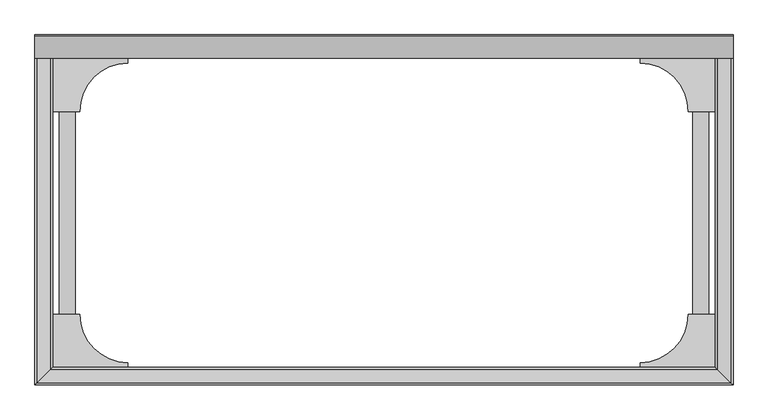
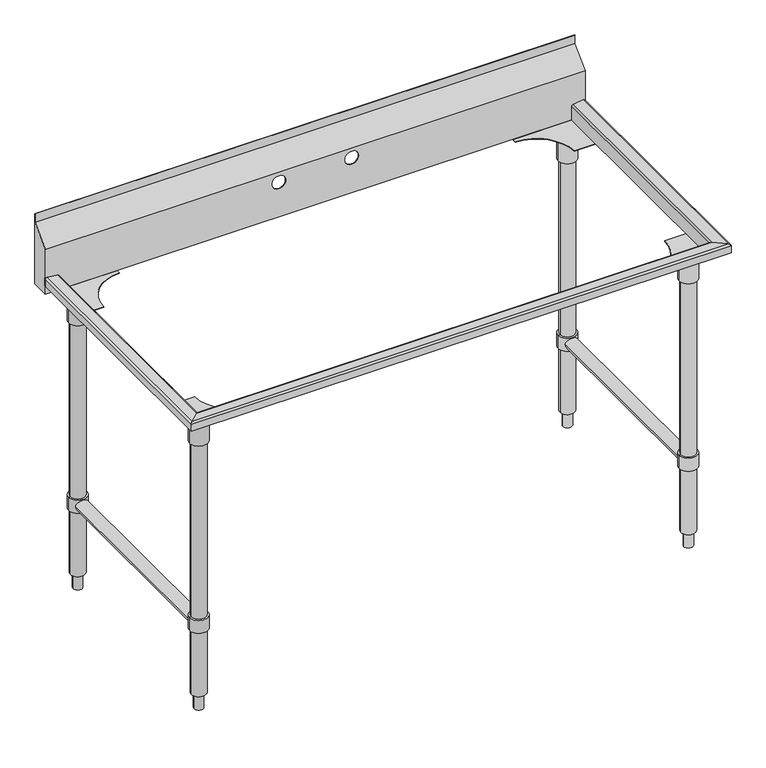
"""IFC4 building model written with IfcOpenShell, lengths in millimetres: flow terminal geometry, Sink_Double _Compartment_Floor_Mount-Elkay-RNSF82482_LR2 : RNSF82482 (Rigidbilt® Stainless Steel Floor Mount Double Compartment Scullery Sink )."""

from ifc_helpers import new_model, si_unit, point, frame, frame_2d, origin, place, context, project, spatial, polyline, circle_curve, ellipse_curve, trimmed, segment, composite_curve, outline, extrude, source, transform, mapped, element, save
from ifc_brep_helpers import plane_surface, cylinder_surface, revolved_surface, advanced_brep


def flow_terminal_7016cc60(model_context):
    return source(origin(), model_context, "Body", "SolidModel", [
        advanced_brep(
        [(751.0526, 330.1238, 909.8368683), (747.4906648, 330.1238, 912.9882024), (718.5854648, 330.1238, 909.4390901), (715.7974, 330.1238, 906.287756), (715.7974, 330.1238, 866.775), (714.375, 330.1238, 866.775), (714.375, 330.1238, 906.287756), (718.4121179, 330.1238, 910.8508877), (747.3173179, 330.1238, 914.4), (752.475, 330.1238, 909.8368683), (752.475, 330.1238, 889.6332837), (751.0526, 330.1238, 889.6332837), (751.0526, -376.4026, 909.8368683), (747.4906648, -372.8406648, 912.9882024), (718.5854648, -343.9354648, 909.4390901), (715.7974, -341.1474, 906.287756), (715.7974, -341.1474, 866.775), (-715.7974, -341.1474, 866.775), (-715.7974, 330.1238, 866.775), (-714.375, 330.1238, 866.775), (-714.375, -339.725, 866.775), (714.375, -339.725, 866.775), (714.375, -339.725, 906.287756), (718.4121179, -343.7621179, 910.8508877), (747.3173179, -372.6673179, 914.4), (752.475, -377.825, 909.8368683), (752.475, -377.825, 889.6332837), (-752.475, -377.825, 889.6332837), (-752.475, 330.1238, 889.6332837), (-751.0526, 330.1238, 889.6332837), (-751.0526, -376.4026, 889.6332837), (751.0526, -376.4026, 889.6332837), (-751.0526, -376.4026, 909.8368683), (-747.4906648, -372.8406648, 912.9882024), (-718.5854648, -343.9354648, 909.4390901), (-715.7974, -341.1474, 906.287756), (-714.375, -339.725, 906.287756), (-718.4121179, -343.7621179, 910.8508877), (-747.3173179, -372.6673179, 914.4), (-752.475, -377.825, 909.8368683), (-751.0526, 330.1238, 909.8368683), (-752.475, 330.1238, 909.8368683), (-747.3173179, 330.1238, 914.4), (-718.4121179, 330.1238, 910.8508877), (-714.375, 330.1238, 906.287756), (-715.7974, 330.1238, 906.287756), (-718.5854648, 330.1238, 909.4390901), (-747.4906648, 330.1238, 912.9882024)],
        [
            (0, 1, circle_curve(frame((747.8776, 330.1238, 909.8368683), z_axis=(0.0, -1.0, 0.0), x_axis=(1.0, 0.0, 0.0)), 3.175)),
            (1, 2),
            (2, 3, circle_curve(frame((718.9724, 330.1238, 906.287756), z_axis=(0.0, -1.0, 0.0), x_axis=(1.0, 0.0, 0.0)), 3.175)),
            (3, 4),
            (4, 5),
            (5, 6),
            (6, 7, circle_curve(frame((718.9724, 330.1238, 906.287756), z_axis=(0.0, 1.0, 0.0), x_axis=(1.0, 0.0, 0.0)), 4.5974)),
            (7, 8),
            (8, 9, circle_curve(frame((747.8776, 330.1238, 909.8368683), z_axis=(0.0, 1.0, 0.0), x_axis=(1.0, 0.0, 0.0)), 4.5974)),
            (9, 10),
            (10, 11),
            (11, 0),
            (0, 12),
            (12, 13, ellipse_curve(frame((747.8776, -373.2276, 909.8368683), z_axis=(-0.7071067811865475, -0.7071067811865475, 0.0), x_axis=(0.7071067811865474, -0.7071067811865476, 0.0)), 4.4901281, 3.175)),
            (13, 1),
            (13, 14),
            (14, 2),
            (14, 15, ellipse_curve(frame((718.9724, -344.3224, 906.287756), z_axis=(-0.7071067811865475, -0.7071067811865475, 0.0), x_axis=(0.7071067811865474, -0.7071067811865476, 0.0)), 4.4901281, 3.175)),
            (15, 3),
            (15, 16),
            (16, 4),
            (16, 17),
            (17, 18),
            (18, 19),
            (19, 20),
            (20, 21),
            (21, 5),
            (21, 22),
            (22, 6),
            (22, 23, ellipse_curve(frame((718.9724, -344.3224, 906.287756), z_axis=(0.7071067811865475, 0.7071067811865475, 0.0), x_axis=(-0.7071067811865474, 0.7071067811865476, 0.0)), 6.5017054, 4.5974)),
            (23, 7),
            (23, 24),
            (24, 8),
            (24, 25, ellipse_curve(frame((747.8776, -373.2276, 909.8368683), z_axis=(0.7071067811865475, 0.7071067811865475, 0.0), x_axis=(-0.7071067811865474, 0.7071067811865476, 0.0)), 6.5017054, 4.5974)),
            (25, 9),
            (25, 26),
            (26, 10),
            (26, 27),
            (27, 28),
            (28, 29),
            (29, 30),
            (30, 31),
            (31, 11),
            (31, 12),
            (12, 32),
            (32, 33, ellipse_curve(frame((-747.8776, -373.2276, 909.8368683), z_axis=(-0.7071067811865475, 0.7071067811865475, 0.0), x_axis=(-0.7071067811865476, -0.7071067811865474, 0.0)), 4.4901281, 3.175)),
            (33, 13),
            (33, 34),
            (34, 14),
            (34, 35, ellipse_curve(frame((-718.9724, -344.3224, 906.287756), z_axis=(-0.7071067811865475, 0.7071067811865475, 0.0), x_axis=(-0.7071067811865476, -0.7071067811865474, 0.0)), 4.4901281, 3.175)),
            (35, 15),
            (35, 17),
            (20, 36),
            (36, 22),
            (36, 37, ellipse_curve(frame((-718.9724, -344.3224, 906.287756), z_axis=(0.7071067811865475, -0.7071067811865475, 0.0), x_axis=(0.7071067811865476, 0.7071067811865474, 0.0)), 6.5017054, 4.5974)),
            (37, 23),
            (37, 38),
            (38, 24),
            (38, 39, ellipse_curve(frame((-747.8776, -373.2276, 909.8368683), z_axis=(0.7071067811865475, -0.7071067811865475, 0.0), x_axis=(0.7071067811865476, 0.7071067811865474, 0.0)), 6.5017054, 4.5974)),
            (39, 25),
            (39, 27),
            (30, 32),
            (40, 29),
            (28, 41),
            (41, 42, circle_curve(frame((-747.8776, 330.1238, 909.8368683), z_axis=(0.0, 1.0, 0.0), x_axis=(-1.0, 0.0, 0.0)), 4.5974)),
            (42, 43),
            (43, 44, circle_curve(frame((-718.9724, 330.1238, 906.287756), z_axis=(0.0, 1.0, 0.0), x_axis=(-1.0, 0.0, 0.0)), 4.5974)),
            (44, 19),
            (18, 45),
            (45, 46, circle_curve(frame((-718.9724, 330.1238, 906.287756), z_axis=(0.0, -1.0, 0.0), x_axis=(-1.0, 0.0, 0.0)), 3.175)),
            (46, 47),
            (47, 40, circle_curve(frame((-747.8776, 330.1238, 909.8368683), z_axis=(0.0, -1.0, 0.0), x_axis=(-1.0, 0.0, 0.0)), 3.175)),
            (32, 40),
            (47, 33),
            (46, 34),
            (45, 35),
            (44, 36),
            (43, 37),
            (42, 38),
            (41, 39),
        ],
        [
            plane_surface(frame((752.475, 330.1238, 0.0), z_axis=(0.0, 1.0, 0.0), x_axis=(0.0, 0.0, 1.0))),
            revolved_surface(polyline([(751.0526, -376.4026000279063, 909.8368683), (751.0526, 330.1238, 909.8368683)]), (747.8776, 330.1238, 909.8368683), (0.0, -1.0, 0.0)),
            plane_surface(frame((747.4906648, 330.1238, 912.9882024), z_axis=(0.12186934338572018, 0.0, -0.9925461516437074), x_axis=(0.0, -1.0, 0.0))),
            revolved_surface(polyline([(722.1474, -347.4974000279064, 906.287756), (722.1474, 330.1238, 906.287756)]), (718.9724, 330.1238, 906.287756), (0.0, -1.0, 0.0)),
            plane_surface(frame((715.7974, 330.1238, 906.287756), z_axis=(1.0, 0.0, 0.0), x_axis=(0.0, -1.0, 0.0))),
            plane_surface(frame((715.7974, 330.1238, 866.775), z_axis=(0.0, 0.0, -1.0), x_axis=(0.0, -1.0, 0.0))),
            plane_surface(frame((714.375, 330.1238, 866.775), z_axis=(-1.0, 0.0, 0.0), x_axis=(0.0, -1.0, 0.0))),
            cylinder_surface(frame((718.9724, 330.1238, 906.287756), z_axis=(0.0, 1.0, 0.0), x_axis=(1.0, 0.0, 0.0)), 4.5974),
            plane_surface(frame((718.4121179, 330.1238, 910.8508877), z_axis=(-0.12186934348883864, 0.0, 0.9925461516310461), x_axis=(0.0, -1.0, 0.0))),
            cylinder_surface(frame((747.8776, 330.1238, 909.8368683), z_axis=(0.0, 1.0, 0.0), x_axis=(1.0, 0.0, 0.0)), 4.5974),
            plane_surface(frame((752.475, 330.1238, 909.8368683), z_axis=(1.0, 0.0, 0.0), x_axis=(0.0, -1.0, 0.0))),
            plane_surface(frame((752.475, 330.1238, 889.6332837), z_axis=(0.0, 0.0, -1.0), x_axis=(0.0, -1.0, 0.0))),
            plane_surface(frame((751.0526, 330.1238, 889.6332837), z_axis=(-1.0, 0.0, 0.0), x_axis=(0.0, -1.0, 0.0))),
            revolved_surface(polyline([(-751.0526000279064, -376.4026, 909.8368683), (751.0526000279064, -376.4026, 909.8368683)]), (752.475, -373.2276, 909.8368683), (-1.0, 0.0, 0.0)),
            plane_surface(frame((747.4906648, -372.8406648, 912.9882024), z_axis=(0.0, -0.12186934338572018, -0.9925461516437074), x_axis=(-1.0, 0.0, 0.0))),
            revolved_surface(polyline([(-722.1474000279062, -347.4974, 906.287756), (722.1474000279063, -347.4974, 906.287756)]), (752.475, -344.3224, 906.287756), (-1.0, 0.0, 0.0)),
            plane_surface(frame((715.7974, -341.1474, 906.287756), z_axis=(0.0, -1.0, 0.0), x_axis=(-1.0, 0.0, 0.0))),
            plane_surface(frame((714.375, -339.725, 866.775), z_axis=(0.0, 1.0, 0.0), x_axis=(-1.0, 0.0, 0.0))),
            cylinder_surface(frame((752.475, -344.3224, 906.287756), z_axis=(1.0, 0.0, 0.0), x_axis=(0.0, -1.0, 0.0)), 4.5974),
            plane_surface(frame((718.4121179, -343.7621179, 910.8508877), z_axis=(0.0, 0.12186934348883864, 0.9925461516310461), x_axis=(-1.0, 0.0, 0.0))),
            cylinder_surface(frame((752.475, -373.2276, 909.8368683), z_axis=(1.0, 0.0, 0.0), x_axis=(0.0, -1.0, 0.0)), 4.5974),
            plane_surface(frame((752.475, -377.825, 909.8368683), z_axis=(0.0, -1.0, 0.0), x_axis=(-1.0, 0.0, 0.0))),
            plane_surface(frame((751.0526, -376.4026, 889.6332837), z_axis=(0.0, 1.0, 0.0), x_axis=(-1.0, 0.0, 0.0))),
            plane_surface(frame((-752.475, 330.1238, 0.0), z_axis=(0.0, 1.0, 0.0), x_axis=(0.0, 0.0, 1.0))),
            revolved_surface(polyline([(-751.0526, 330.1238, 909.8368683), (-751.0526, -376.40260002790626, 909.8368683)]), (-747.8776, -377.825, 909.8368683), (0.0, 1.0, 0.0)),
            plane_surface(frame((-747.4906648, -372.8406648, 912.9882024), z_axis=(-0.12186934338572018, 0.0, -0.9925461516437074), x_axis=(0.0, 1.0, 0.0))),
            revolved_surface(polyline([(-722.1474, 330.1238, 906.287756), (-722.1474, -347.4974000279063, 906.287756)]), (-718.9724, -377.825, 906.287756), (0.0, 1.0, 0.0)),
            plane_surface(frame((-715.7974, -341.1474, 906.287756), z_axis=(-1.0, 0.0, 0.0), x_axis=(0.0, 1.0, 0.0))),
            plane_surface(frame((-714.375, -339.725, 866.775), z_axis=(1.0, 0.0, 0.0), x_axis=(0.0, 1.0, 0.0))),
            cylinder_surface(frame((-718.9724, -377.825, 906.287756), z_axis=(0.0, -1.0, 0.0), x_axis=(-1.0, 0.0, 0.0)), 4.5974),
            plane_surface(frame((-718.4121179, -343.7621179, 910.8508877), z_axis=(0.12186934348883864, 0.0, 0.9925461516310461), x_axis=(0.0, 1.0, 0.0))),
            cylinder_surface(frame((-747.8776, -377.825, 909.8368683), z_axis=(0.0, -1.0, 0.0), x_axis=(-1.0, 0.0, 0.0)), 4.5974),
            plane_surface(frame((-752.475, -377.825, 909.8368683), z_axis=(-1.0, 0.0, 0.0), x_axis=(0.0, 1.0, 0.0))),
            plane_surface(frame((-751.0526, -376.4026, 889.6332837), z_axis=(1.0, 0.0, 0.0), x_axis=(0.0, 1.0, 0.0))),
        ],
        [
            (0, [[1, 2, 3, 4, 5, 6, 7, 8, 9, 10, 11, 12]]),
            (1, [[-1, 13, 14, 15]]),
            (2, [[-2, -15, 16, 17]]),
            (3, [[-3, -17, 18, 19]]),
            (4, [[-4, -19, 20, 21]]),
            (5, [[-5, -21, 22, 23, 24, 25, 26, 27]]),
            (6, [[-6, -27, 28, 29]]),
            (7, [[-7, -29, 30, 31]]),
            (8, [[-8, -31, 32, 33]]),
            (9, [[-9, -33, 34, 35]]),
            (10, [[-10, -35, 36, 37]]),
            (11, [[-11, -37, 38, 39, 40, 41, 42, 43]]),
            (12, [[-12, -43, 44, -13]]),
            (13, [[-14, 45, 46, 47]]),
            (14, [[-16, -47, 48, 49]]),
            (15, [[-18, -49, 50, 51]]),
            (16, [[-20, -51, 52, -22]]),
            (17, [[-28, -26, 53, 54]]),
            (18, [[-30, -54, 55, 56]]),
            (19, [[-32, -56, 57, 58]]),
            (20, [[-34, -58, 59, 60]]),
            (21, [[-36, -60, 61, -38]]),
            (22, [[-44, -42, 62, -45]]),
            (23, [[63, -40, 64, 65, 66, 67, 68, -24, 69, 70, 71, 72]]),
            (24, [[-46, 73, -72, 74]]),
            (25, [[-48, -74, -71, 75]]),
            (26, [[-50, -75, -70, 76]]),
            (27, [[-52, -76, -69, -23]]),
            (28, [[-53, -25, -68, 77]]),
            (29, [[-55, -77, -67, 78]]),
            (30, [[-57, -78, -66, 79]]),
            (31, [[-59, -79, -65, 80]]),
            (32, [[-61, -80, -64, -39]]),
            (33, [[-62, -41, -63, -73]]),
        ],
    ),
        advanced_brep(
        [(657.225, 292.1, 787.5081855), (708.025, 292.1, 787.5081855), (708.025, 292.1, 863.7081855), (657.225, 292.1, 863.7081855), (657.225, 292.1, 273.05), (708.025, 292.1, 273.05), (702.945, 292.1, 273.05), (662.305, 292.1, 273.05), (657.225, 292.1, 234.95), (708.025, 292.1, 234.95), (662.305, 292.1, 234.95), (702.945, 292.1, 234.95), (662.305, 292.1, 44.45), (702.945, 292.1, 44.45), (669.925, 292.1, 44.45), (695.325, 292.1, 44.45), (669.925, 292.1, 0.0), (695.325, 292.1, 0.0), (682.625, 292.1, 0.0), (682.625, 292.1, 863.7081855), (662.305, 292.1, 787.5081855), (702.945, 292.1, 787.5081855)],
        [
            (0, 1, circle_curve(frame((682.625, 292.1, 787.5081855), z_axis=(0.0, 0.0, 1.0), x_axis=(1.0, 0.0, 0.0)), 25.4)),
            (1, 2),
            (2, 3, circle_curve(frame((682.625, 292.1, 863.7081855), z_axis=(0.0, 0.0, -1.0), x_axis=(1.0, 0.0, 0.0)), 25.4)),
            (3, 0),
            (1, 0, circle_curve(frame((682.625, 292.1, 787.5081855), z_axis=(0.0, 0.0, 1.0), x_axis=(1.0, 0.0, 0.0)), 25.4)),
            (3, 2, circle_curve(frame((682.625, 292.1, 863.7081855), z_axis=(0.0, 0.0, -1.0), x_axis=(1.0, 0.0, 0.0)), 25.4)),
            (4, 5, circle_curve(frame((682.625, 292.1, 273.05), z_axis=(0.0, 0.0, 1.0), x_axis=(1.0, 0.0, 0.0)), 25.4)),
            (5, 6),
            (6, 7, circle_curve(frame((682.625, 292.1, 273.05), z_axis=(0.0, 0.0, -1.0), x_axis=(1.0, 0.0, 0.0)), 20.32)),
            (7, 4),
            (5, 4, circle_curve(frame((682.625, 292.1, 273.05), z_axis=(0.0, 0.0, 1.0), x_axis=(1.0, 0.0, 0.0)), 25.4)),
            (7, 6, circle_curve(frame((682.625, 292.1, 273.05), z_axis=(0.0, 0.0, -1.0), x_axis=(1.0, 0.0, 0.0)), 20.32)),
            (8, 9, circle_curve(frame((682.625, 292.1, 234.95), z_axis=(0.0, 0.0, 1.0), x_axis=(1.0, 0.0, 0.0)), 25.4)),
            (9, 5),
            (4, 8),
            (9, 8, circle_curve(frame((682.625, 292.1, 234.95), z_axis=(0.0, 0.0, 1.0), x_axis=(1.0, 0.0, 0.0)), 25.4)),
            (10, 11, circle_curve(frame((682.625, 292.1, 234.95), z_axis=(0.0, 0.0, 1.0), x_axis=(1.0, 0.0, 0.0)), 20.32)),
            (11, 9),
            (8, 10),
            (11, 10, circle_curve(frame((682.625, 292.1, 234.95), z_axis=(0.0, 0.0, 1.0), x_axis=(1.0, 0.0, 0.0)), 20.32)),
            (12, 13, circle_curve(frame((682.625, 292.1, 44.45), z_axis=(0.0, 0.0, 1.0), x_axis=(1.0, 0.0, 0.0)), 20.32)),
            (13, 11),
            (10, 12),
            (13, 12, circle_curve(frame((682.625, 292.1, 44.45), z_axis=(0.0, 0.0, 1.0), x_axis=(1.0, 0.0, 0.0)), 20.32)),
            (14, 15, circle_curve(frame((682.625, 292.1, 44.45), z_axis=(0.0, 0.0, 1.0), x_axis=(1.0, 0.0, 0.0)), 12.7)),
            (15, 13),
            (12, 14),
            (15, 14, circle_curve(frame((682.625, 292.1, 44.45), z_axis=(0.0, 0.0, 1.0), x_axis=(1.0, 0.0, 0.0)), 12.7)),
            (16, 17, circle_curve(frame((682.625, 292.1, 0.0), z_axis=(0.0, 0.0, 1.0), x_axis=(1.0, 0.0, 0.0)), 12.7)),
            (17, 15),
            (14, 16),
            (17, 16, circle_curve(frame((682.625, 292.1, 0.0), z_axis=(0.0, 0.0, 1.0), x_axis=(1.0, 0.0, 0.0)), 12.7)),
            (18, 17),
            (16, 18),
            (2, 19),
            (19, 3),
            (20, 21, circle_curve(frame((682.625, 292.1, 787.5081855), z_axis=(0.0, 0.0, 1.0), x_axis=(1.0, 0.0, 0.0)), 20.32)),
            (21, 1),
            (0, 20),
            (21, 20, circle_curve(frame((682.625, 292.1, 787.5081855), z_axis=(0.0, 0.0, 1.0), x_axis=(1.0, 0.0, 0.0)), 20.32)),
            (6, 21),
            (20, 7),
        ],
        [
            cylinder_surface(frame((682.625, 292.1, 1148.8879315), z_axis=(0.0, 0.0, -1.0), x_axis=(1.0, 0.0, 0.0)), 25.4),
            plane_surface(frame((682.625, 292.1, 273.05), z_axis=(0.0, 0.0, 1.0), x_axis=(1.0, 0.0, 0.0))),
            plane_surface(frame((682.625, 292.1, 234.95), z_axis=(0.0, 0.0, -1.0), x_axis=(1.0, 0.0, 0.0))),
            cylinder_surface(frame((682.625, 292.1, 1148.8879315), z_axis=(0.0, 0.0, -1.0), x_axis=(1.0, 0.0, 0.0)), 20.32),
            plane_surface(frame((682.625, 292.1, 44.45), z_axis=(0.0, 0.0, -1.0), x_axis=(1.0, 0.0, 0.0))),
            cylinder_surface(frame((682.625, 292.1, 1148.8879315), z_axis=(0.0, 0.0, -1.0), x_axis=(1.0, 0.0, 0.0)), 12.7),
            plane_surface(frame((682.625, 292.1, 0.0), z_axis=(0.0, 0.0, -1.0), x_axis=(1.0, 0.0, 0.0))),
            plane_surface(frame((682.625, 292.1, 863.7081855), z_axis=(0.0, 0.0, 1.0), x_axis=(1.0, 0.0, 0.0))),
            plane_surface(frame((682.625, 292.1, 787.5081855), z_axis=(0.0, 0.0, -1.0), x_axis=(1.0, 0.0, 0.0))),
        ],
        [
            (0, [[1, 2, 3, 4]]),
            (0, [[5, -4, 6, -2]]),
            (1, [[7, 8, 9, 10]]),
            (1, [[11, -10, 12, -8]]),
            (0, [[13, 14, -7, 15]]),
            (0, [[16, -15, -11, -14]]),
            (2, [[17, 18, -13, 19]]),
            (2, [[20, -19, -16, -18]]),
            (3, [[21, 22, -17, 23]]),
            (3, [[24, -23, -20, -22]]),
            (4, [[25, 26, -21, 27]]),
            (4, [[28, -27, -24, -26]]),
            (5, [[29, 30, -25, 31]]),
            (5, [[32, -31, -28, -30]]),
            (6, [[33, -29, 34]]),
            (6, [[-34, -32, -33]]),
            (7, [[-3, 35, 36]]),
            (7, [[-6, -36, -35]]),
            (8, [[37, 38, -1, 39]]),
            (8, [[40, -39, -5, -38]]),
            (3, [[-9, 41, -37, 42]]),
            (3, [[-12, -42, -40, -41]]),
        ],
    ),
        advanced_brep(
        [(657.225, -292.1, 787.5081855), (708.025, -292.1, 787.5081855), (708.025, -292.1, 863.7081855), (657.225, -292.1, 863.7081855), (657.225, -292.1, 273.05), (708.025, -292.1, 273.05), (702.945, -292.1, 273.05), (662.305, -292.1, 273.05), (657.225, -292.1, 234.95), (708.025, -292.1, 234.95), (662.305, -292.1, 234.95), (702.945, -292.1, 234.95), (662.305, -292.1, 44.45), (702.945, -292.1, 44.45), (669.925, -292.1, 44.45), (695.325, -292.1, 44.45), (669.925, -292.1, 0.0), (695.325, -292.1, 0.0), (682.625, -292.1, 0.0), (682.625, -292.1, 863.7081855), (662.305, -292.1, 787.5081855), (702.945, -292.1, 787.5081855)],
        [
            (0, 1, circle_curve(frame((682.625, -292.1, 787.5081855), z_axis=(0.0, 0.0, 1.0), x_axis=(1.0, 0.0, 0.0)), 25.4)),
            (1, 2),
            (2, 3, circle_curve(frame((682.625, -292.1, 863.7081855), z_axis=(0.0, 0.0, -1.0), x_axis=(1.0, 0.0, 0.0)), 25.4)),
            (3, 0),
            (1, 0, circle_curve(frame((682.625, -292.1, 787.5081855), z_axis=(0.0, 0.0, 1.0), x_axis=(1.0, 0.0, 0.0)), 25.4)),
            (3, 2, circle_curve(frame((682.625, -292.1, 863.7081855), z_axis=(0.0, 0.0, -1.0), x_axis=(1.0, 0.0, 0.0)), 25.4)),
            (4, 5, circle_curve(frame((682.625, -292.1, 273.05), z_axis=(0.0, 0.0, 1.0), x_axis=(1.0, 0.0, 0.0)), 25.4)),
            (5, 6),
            (6, 7, circle_curve(frame((682.625, -292.1, 273.05), z_axis=(0.0, 0.0, -1.0), x_axis=(1.0, 0.0, 0.0)), 20.32)),
            (7, 4),
            (5, 4, circle_curve(frame((682.625, -292.1, 273.05), z_axis=(0.0, 0.0, 1.0), x_axis=(1.0, 0.0, 0.0)), 25.4)),
            (7, 6, circle_curve(frame((682.625, -292.1, 273.05), z_axis=(0.0, 0.0, -1.0), x_axis=(1.0, 0.0, 0.0)), 20.32)),
            (8, 9, circle_curve(frame((682.625, -292.1, 234.95), z_axis=(0.0, 0.0, 1.0), x_axis=(1.0, 0.0, 0.0)), 25.4)),
            (9, 5),
            (4, 8),
            (9, 8, circle_curve(frame((682.625, -292.1, 234.95), z_axis=(0.0, 0.0, 1.0), x_axis=(1.0, 0.0, 0.0)), 25.4)),
            (10, 11, circle_curve(frame((682.625, -292.1, 234.95), z_axis=(0.0, 0.0, 1.0), x_axis=(1.0, 0.0, 0.0)), 20.32)),
            (11, 9),
            (8, 10),
            (11, 10, circle_curve(frame((682.625, -292.1, 234.95), z_axis=(0.0, 0.0, 1.0), x_axis=(1.0, 0.0, 0.0)), 20.32)),
            (12, 13, circle_curve(frame((682.625, -292.1, 44.45), z_axis=(0.0, 0.0, 1.0), x_axis=(1.0, 0.0, 0.0)), 20.32)),
            (13, 11),
            (10, 12),
            (13, 12, circle_curve(frame((682.625, -292.1, 44.45), z_axis=(0.0, 0.0, 1.0), x_axis=(1.0, 0.0, 0.0)), 20.32)),
            (14, 15, circle_curve(frame((682.625, -292.1, 44.45), z_axis=(0.0, 0.0, 1.0), x_axis=(1.0, 0.0, 0.0)), 12.7)),
            (15, 13),
            (12, 14),
            (15, 14, circle_curve(frame((682.625, -292.1, 44.45), z_axis=(0.0, 0.0, 1.0), x_axis=(1.0, 0.0, 0.0)), 12.7)),
            (16, 17, circle_curve(frame((682.625, -292.1, 0.0), z_axis=(0.0, 0.0, 1.0), x_axis=(1.0, 0.0, 0.0)), 12.7)),
            (17, 15),
            (14, 16),
            (17, 16, circle_curve(frame((682.625, -292.1, 0.0), z_axis=(0.0, 0.0, 1.0), x_axis=(1.0, 0.0, 0.0)), 12.7)),
            (18, 17),
            (16, 18),
            (2, 19),
            (19, 3),
            (20, 21, circle_curve(frame((682.625, -292.1, 787.5081855), z_axis=(0.0, 0.0, 1.0), x_axis=(1.0, 0.0, 0.0)), 20.32)),
            (21, 1),
            (0, 20),
            (21, 20, circle_curve(frame((682.625, -292.1, 787.5081855), z_axis=(0.0, 0.0, 1.0), x_axis=(1.0, 0.0, 0.0)), 20.32)),
            (6, 21),
            (20, 7),
        ],
        [
            cylinder_surface(frame((682.625, -292.1, 1148.8879315), z_axis=(0.0, 0.0, -1.0), x_axis=(1.0, 0.0, 0.0)), 25.4),
            plane_surface(frame((682.625, -292.1, 273.05), z_axis=(0.0, 0.0, 1.0), x_axis=(1.0, 0.0, 0.0))),
            plane_surface(frame((682.625, -292.1, 234.95), z_axis=(0.0, 0.0, -1.0), x_axis=(1.0, 0.0, 0.0))),
            cylinder_surface(frame((682.625, -292.1, 1148.8879315), z_axis=(0.0, 0.0, -1.0), x_axis=(1.0, 0.0, 0.0)), 20.32),
            plane_surface(frame((682.625, -292.1, 44.45), z_axis=(0.0, 0.0, -1.0), x_axis=(1.0, 0.0, 0.0))),
            cylinder_surface(frame((682.625, -292.1, 1148.8879315), z_axis=(0.0, 0.0, -1.0), x_axis=(1.0, 0.0, 0.0)), 12.7),
            plane_surface(frame((682.625, -292.1, 0.0), z_axis=(0.0, 0.0, -1.0), x_axis=(1.0, 0.0, 0.0))),
            plane_surface(frame((682.625, -292.1, 863.7081855), z_axis=(0.0, 0.0, 1.0), x_axis=(1.0, 0.0, 0.0))),
            plane_surface(frame((682.625, -292.1, 787.5081855), z_axis=(0.0, 0.0, -1.0), x_axis=(1.0, 0.0, 0.0))),
        ],
        [
            (0, [[1, 2, 3, 4]]),
            (0, [[5, -4, 6, -2]]),
            (1, [[7, 8, 9, 10]]),
            (1, [[11, -10, 12, -8]]),
            (0, [[13, 14, -7, 15]]),
            (0, [[16, -15, -11, -14]]),
            (2, [[17, 18, -13, 19]]),
            (2, [[20, -19, -16, -18]]),
            (3, [[21, 22, -17, 23]]),
            (3, [[24, -23, -20, -22]]),
            (4, [[25, 26, -21, 27]]),
            (4, [[28, -27, -24, -26]]),
            (5, [[29, 30, -25, 31]]),
            (5, [[32, -31, -28, -30]]),
            (6, [[33, -29, 34]]),
            (6, [[-34, -32, -33]]),
            (7, [[-3, 35, 36]]),
            (7, [[-6, -36, -35]]),
            (8, [[37, 38, -1, 39]]),
            (8, [[40, -39, -5, -38]]),
            (3, [[-9, 41, -37, 42]]),
            (3, [[-12, -42, -40, -41]]),
        ],
    ),
        advanced_brep(
        [(-657.225, -292.1, 863.7081855), (-708.025, -292.1, 863.7081855), (-708.025, -292.1, 787.5081855), (-657.225, -292.1, 787.5081855), (-662.305, -292.1, 273.05), (-702.945, -292.1, 273.05), (-708.025, -292.1, 273.05), (-657.225, -292.1, 273.05), (-708.025, -292.1, 234.95), (-657.225, -292.1, 234.95), (-702.945, -292.1, 234.95), (-662.305, -292.1, 234.95), (-702.945, -292.1, 44.45), (-662.305, -292.1, 44.45), (-695.325, -292.1, 44.45), (-669.925, -292.1, 44.45), (-695.325, -292.1, 0.0), (-669.925, -292.1, 0.0), (-682.625, -292.1, 0.0), (-682.625, -292.1, 863.7081855), (-702.945, -292.1, 787.5081855), (-662.305, -292.1, 787.5081855)],
        [
            (0, 1, circle_curve(frame((-682.625, -292.1, 863.7081855), z_axis=(0.0, 0.0, -1.0), x_axis=(-1.0, 0.0, 0.0)), 25.4)),
            (1, 2),
            (2, 3, circle_curve(frame((-682.625, -292.1, 787.5081855), z_axis=(0.0, 0.0, 1.0), x_axis=(-1.0, 0.0, 0.0)), 25.4)),
            (3, 0),
            (1, 0, circle_curve(frame((-682.625, -292.1, 863.7081855), z_axis=(0.0, 0.0, -1.0), x_axis=(-1.0, 0.0, 0.0)), 25.4)),
            (3, 2, circle_curve(frame((-682.625, -292.1, 787.5081855), z_axis=(0.0, 0.0, 1.0), x_axis=(-1.0, 0.0, 0.0)), 25.4)),
            (4, 5, circle_curve(frame((-682.625, -292.1, 273.05), z_axis=(0.0, 0.0, -1.0), x_axis=(-1.0, 0.0, 0.0)), 20.32)),
            (5, 6),
            (6, 7, circle_curve(frame((-682.625, -292.1, 273.05), z_axis=(0.0, 0.0, 1.0), x_axis=(-1.0, 0.0, 0.0)), 25.4)),
            (7, 4),
            (5, 4, circle_curve(frame((-682.625, -292.1, 273.05), z_axis=(0.0, 0.0, -1.0), x_axis=(-1.0, 0.0, 0.0)), 20.32)),
            (7, 6, circle_curve(frame((-682.625, -292.1, 273.05), z_axis=(0.0, 0.0, 1.0), x_axis=(-1.0, 0.0, 0.0)), 25.4)),
            (6, 8),
            (8, 9, circle_curve(frame((-682.625, -292.1, 234.95), z_axis=(0.0, 0.0, 1.0), x_axis=(-1.0, 0.0, 0.0)), 25.4)),
            (9, 7),
            (9, 8, circle_curve(frame((-682.625, -292.1, 234.95), z_axis=(0.0, 0.0, 1.0), x_axis=(-1.0, 0.0, 0.0)), 25.4)),
            (8, 10),
            (10, 11, circle_curve(frame((-682.625, -292.1, 234.95), z_axis=(0.0, 0.0, 1.0), x_axis=(-1.0, 0.0, 0.0)), 20.32)),
            (11, 9),
            (11, 10, circle_curve(frame((-682.625, -292.1, 234.95), z_axis=(0.0, 0.0, 1.0), x_axis=(-1.0, 0.0, 0.0)), 20.32)),
            (10, 12),
            (12, 13, circle_curve(frame((-682.625, -292.1, 44.45), z_axis=(0.0, 0.0, 1.0), x_axis=(-1.0, 0.0, 0.0)), 20.32)),
            (13, 11),
            (13, 12, circle_curve(frame((-682.625, -292.1, 44.45), z_axis=(0.0, 0.0, 1.0), x_axis=(-1.0, 0.0, 0.0)), 20.32)),
            (12, 14),
            (14, 15, circle_curve(frame((-682.625, -292.1, 44.45), z_axis=(0.0, 0.0, 1.0), x_axis=(-1.0, 0.0, 0.0)), 12.7)),
            (15, 13),
            (15, 14, circle_curve(frame((-682.625, -292.1, 44.45), z_axis=(0.0, 0.0, 1.0), x_axis=(-1.0, 0.0, 0.0)), 12.7)),
            (14, 16),
            (16, 17, circle_curve(frame((-682.625, -292.1, 0.0), z_axis=(0.0, 0.0, 1.0), x_axis=(-1.0, 0.0, 0.0)), 12.7)),
            (17, 15),
            (17, 16, circle_curve(frame((-682.625, -292.1, 0.0), z_axis=(0.0, 0.0, 1.0), x_axis=(-1.0, 0.0, 0.0)), 12.7)),
            (16, 18),
            (18, 17),
            (19, 1),
            (0, 19),
            (2, 20),
            (20, 21, circle_curve(frame((-682.625, -292.1, 787.5081855), z_axis=(0.0, 0.0, 1.0), x_axis=(-1.0, 0.0, 0.0)), 20.32)),
            (21, 3),
            (21, 20, circle_curve(frame((-682.625, -292.1, 787.5081855), z_axis=(0.0, 0.0, 1.0), x_axis=(-1.0, 0.0, 0.0)), 20.32)),
            (20, 5),
            (4, 21),
        ],
        [
            cylinder_surface(frame((-682.625, -292.1, 1148.8879315), z_axis=(0.0, 0.0, 1.0), x_axis=(-1.0, 0.0, 0.0)), 25.4),
            plane_surface(frame((-682.625, -292.1, 273.05), z_axis=(0.0, 0.0, 1.0), x_axis=(-1.0, 0.0, 0.0))),
            plane_surface(frame((-682.625, -292.1, 234.95), z_axis=(0.0, 0.0, -1.0), x_axis=(-1.0, 0.0, 0.0))),
            cylinder_surface(frame((-682.625, -292.1, 1148.8879315), z_axis=(0.0, 0.0, 1.0), x_axis=(-1.0, 0.0, 0.0)), 20.32),
            plane_surface(frame((-682.625, -292.1, 44.45), z_axis=(0.0, 0.0, -1.0), x_axis=(-1.0, 0.0, 0.0))),
            cylinder_surface(frame((-682.625, -292.1, 1148.8879315), z_axis=(0.0, 0.0, 1.0), x_axis=(-1.0, 0.0, 0.0)), 12.7),
            plane_surface(frame((-682.625, -292.1, 0.0), z_axis=(0.0, 0.0, -1.0), x_axis=(-1.0, 0.0, 0.0))),
            plane_surface(frame((-682.625, -292.1, 863.7081855), z_axis=(0.0, 0.0, 1.0), x_axis=(-1.0, 0.0, 0.0))),
            plane_surface(frame((-682.625, -292.1, 787.5081855), z_axis=(0.0, 0.0, -1.0), x_axis=(-1.0, 0.0, 0.0))),
        ],
        [
            (0, [[1, 2, 3, 4]]),
            (0, [[5, -4, 6, -2]]),
            (1, [[7, 8, 9, 10]]),
            (1, [[11, -10, 12, -8]]),
            (0, [[-9, 13, 14, 15]]),
            (0, [[-12, -15, 16, -13]]),
            (2, [[-14, 17, 18, 19]]),
            (2, [[-16, -19, 20, -17]]),
            (3, [[-18, 21, 22, 23]]),
            (3, [[-20, -23, 24, -21]]),
            (4, [[-22, 25, 26, 27]]),
            (4, [[-24, -27, 28, -25]]),
            (5, [[-26, 29, 30, 31]]),
            (5, [[-28, -31, 32, -29]]),
            (6, [[-30, 33, 34]]),
            (6, [[-32, -34, -33]]),
            (7, [[35, -1, 36]]),
            (7, [[-36, -5, -35]]),
            (8, [[-3, 37, 38, 39]]),
            (8, [[-6, -39, 40, -37]]),
            (3, [[-38, 41, -7, 42]]),
            (3, [[-40, -42, -11, -41]]),
        ],
    ),
        advanced_brep(
        [(-657.225, 292.1, 863.7081855), (-708.025, 292.1, 863.7081855), (-708.025, 292.1, 787.5016), (-657.225, 292.1, 787.5016), (-662.305, 292.1, 273.05), (-702.945, 292.1, 273.05), (-708.025, 292.1, 273.05), (-657.225, 292.1, 273.05), (-708.025, 292.1, 234.95), (-657.225, 292.1, 234.95), (-702.945, 292.1, 234.95), (-662.305, 292.1, 234.95), (-702.945, 292.1, 44.45), (-662.305, 292.1, 44.45), (-695.325, 292.1, 44.45), (-669.925, 292.1, 44.45), (-695.325, 292.1, 0.0), (-669.925, 292.1, 0.0), (-682.625, 292.1, 0.0), (-682.625, 292.1, 863.7081855), (-702.945, 292.1, 787.5016), (-662.305, 292.1, 787.5016)],
        [
            (0, 1, circle_curve(frame((-682.625, 292.1, 863.7081855), z_axis=(0.0, 0.0, -1.0), x_axis=(-1.0, 0.0, 0.0)), 25.4)),
            (1, 2),
            (2, 3, circle_curve(frame((-682.625, 292.1, 787.5016), z_axis=(0.0, 0.0, 1.0), x_axis=(-1.0, 0.0, 0.0)), 25.4)),
            (3, 0),
            (1, 0, circle_curve(frame((-682.625, 292.1, 863.7081855), z_axis=(0.0, 0.0, -1.0), x_axis=(-1.0, 0.0, 0.0)), 25.4)),
            (3, 2, circle_curve(frame((-682.625, 292.1, 787.5016), z_axis=(0.0, 0.0, 1.0), x_axis=(-1.0, 0.0, 0.0)), 25.4)),
            (4, 5, circle_curve(frame((-682.625, 292.1, 273.05), z_axis=(0.0, 0.0, -1.0), x_axis=(-1.0, 0.0, 0.0)), 20.32)),
            (5, 6),
            (6, 7, circle_curve(frame((-682.625, 292.1, 273.05), z_axis=(0.0, 0.0, 1.0), x_axis=(-1.0, 0.0, 0.0)), 25.4)),
            (7, 4),
            (5, 4, circle_curve(frame((-682.625, 292.1, 273.05), z_axis=(0.0, 0.0, -1.0), x_axis=(-1.0, 0.0, 0.0)), 20.32)),
            (7, 6, circle_curve(frame((-682.625, 292.1, 273.05), z_axis=(0.0, 0.0, 1.0), x_axis=(-1.0, 0.0, 0.0)), 25.4)),
            (6, 8),
            (8, 9, circle_curve(frame((-682.625, 292.1, 234.95), z_axis=(0.0, 0.0, 1.0), x_axis=(-1.0, 0.0, 0.0)), 25.4)),
            (9, 7),
            (9, 8, circle_curve(frame((-682.625, 292.1, 234.95), z_axis=(0.0, 0.0, 1.0), x_axis=(-1.0, 0.0, 0.0)), 25.4)),
            (8, 10),
            (10, 11, circle_curve(frame((-682.625, 292.1, 234.95), z_axis=(0.0, 0.0, 1.0), x_axis=(-1.0, 0.0, 0.0)), 20.32)),
            (11, 9),
            (11, 10, circle_curve(frame((-682.625, 292.1, 234.95), z_axis=(0.0, 0.0, 1.0), x_axis=(-1.0, 0.0, 0.0)), 20.32)),
            (10, 12),
            (12, 13, circle_curve(frame((-682.625, 292.1, 44.45), z_axis=(0.0, 0.0, 1.0), x_axis=(-1.0, 0.0, 0.0)), 20.32)),
            (13, 11),
            (13, 12, circle_curve(frame((-682.625, 292.1, 44.45), z_axis=(0.0, 0.0, 1.0), x_axis=(-1.0, 0.0, 0.0)), 20.32)),
            (12, 14),
            (14, 15, circle_curve(frame((-682.625, 292.1, 44.45), z_axis=(0.0, 0.0, 1.0), x_axis=(-1.0, 0.0, 0.0)), 12.7)),
            (15, 13),
            (15, 14, circle_curve(frame((-682.625, 292.1, 44.45), z_axis=(0.0, 0.0, 1.0), x_axis=(-1.0, 0.0, 0.0)), 12.7)),
            (14, 16),
            (16, 17, circle_curve(frame((-682.625, 292.1, 0.0), z_axis=(0.0, 0.0, 1.0), x_axis=(-1.0, 0.0, 0.0)), 12.7)),
            (17, 15),
            (17, 16, circle_curve(frame((-682.625, 292.1, 0.0), z_axis=(0.0, 0.0, 1.0), x_axis=(-1.0, 0.0, 0.0)), 12.7)),
            (16, 18),
            (18, 17),
            (19, 1),
            (0, 19),
            (2, 20),
            (20, 21, circle_curve(frame((-682.625, 292.1, 787.5016), z_axis=(0.0, 0.0, 1.0), x_axis=(-1.0, 0.0, 0.0)), 20.32)),
            (21, 3),
            (21, 20, circle_curve(frame((-682.625, 292.1, 787.5016), z_axis=(0.0, 0.0, 1.0), x_axis=(-1.0, 0.0, 0.0)), 20.32)),
            (20, 5),
            (4, 21),
        ],
        [
            cylinder_surface(frame((-682.625, 292.1, 1148.8879315), z_axis=(0.0, 0.0, 1.0), x_axis=(-1.0, 0.0, 0.0)), 25.4),
            plane_surface(frame((-682.625, 292.1, 273.05), z_axis=(0.0, 0.0, 1.0), x_axis=(-1.0, 0.0, 0.0))),
            plane_surface(frame((-682.625, 292.1, 234.95), z_axis=(0.0, 0.0, -1.0), x_axis=(-1.0, 0.0, 0.0))),
            cylinder_surface(frame((-682.625, 292.1, 1148.8879315), z_axis=(0.0, 0.0, 1.0), x_axis=(-1.0, 0.0, 0.0)), 20.32),
            plane_surface(frame((-682.625, 292.1, 44.45), z_axis=(0.0, 0.0, -1.0), x_axis=(-1.0, 0.0, 0.0))),
            cylinder_surface(frame((-682.625, 292.1, 1148.8879315), z_axis=(0.0, 0.0, 1.0), x_axis=(-1.0, 0.0, 0.0)), 12.7),
            plane_surface(frame((-682.625, 292.1, 0.0), z_axis=(0.0, 0.0, -1.0), x_axis=(-1.0, 0.0, 0.0))),
            plane_surface(frame((-682.625, 292.1, 863.7081855), z_axis=(0.0, 0.0, 1.0), x_axis=(-1.0, 0.0, 0.0))),
            plane_surface(frame((-682.625, 292.1, 787.5016), z_axis=(0.0, 0.0, -1.0), x_axis=(-1.0, 0.0, 0.0))),
        ],
        [
            (0, [[1, 2, 3, 4]]),
            (0, [[5, -4, 6, -2]]),
            (1, [[7, 8, 9, 10]]),
            (1, [[11, -10, 12, -8]]),
            (0, [[-9, 13, 14, 15]]),
            (0, [[-12, -15, 16, -13]]),
            (2, [[-14, 17, 18, 19]]),
            (2, [[-16, -19, 20, -17]]),
            (3, [[-18, 21, 22, 23]]),
            (3, [[-20, -23, 24, -21]]),
            (4, [[-22, 25, 26, 27]]),
            (4, [[-24, -27, 28, -25]]),
            (5, [[-26, 29, 30, 31]]),
            (5, [[-28, -31, 32, -29]]),
            (6, [[-30, 33, 34]]),
            (6, [[-32, -34, -33]]),
            (7, [[35, -1, 36]]),
            (7, [[-36, -5, -35]]),
            (8, [[-3, 37, 38, 39]]),
            (8, [[-6, -39, 40, -37]]),
            (3, [[-38, 41, -7, 42]]),
            (3, [[-40, -42, -11, -41]]),
        ],
    ),
        extrude(outline(composite_curve([segment(trimmed(circle_curve(frame_2d((254.0145063, 682.625)), 17.1266822), [point((254.0145063, 665.4983178))], [point((254.0145063, 699.7516822))], False, "CARTESIAN"), True, "CONTINUOUS"), segment(trimmed(circle_curve(frame_2d((254.0145063, 682.625)), 17.1266822), [point((254.0145063, 699.7516822))], [point((254.0145063, 665.4983178))], False, "CARTESIAN"), True, "CONTINUOUS")], self_intersect=False)), frame((0.0, -292.1, 0.0), z_axis=(0.0, 1.0, 0.0), x_axis=(0.0, 0.0, 1.0)), (0.0, 0.0, 1.0), 590.55),
        advanced_brep(
        [(-120.65, 328.4335913, 968.6402906), (-120.65, 327.025, 968.6402906), (-82.55, 327.025, 968.6402906), (-82.55, 328.4335913, 968.6402906), (752.475, 376.4026, 1048.0314899), (752.475, 327.025, 998.6538899), (752.475, 327.025, 866.775), (752.475, 377.825, 866.775), (752.475, 377.825, 1073.15), (752.475, 376.4026, 1073.15), (-752.475, 376.4026, 1048.0314899), (-752.475, 376.4026, 1073.15), (-752.475, 377.825, 1073.15), (-752.475, 377.825, 866.775), (-752.475, 327.025, 866.775), (-752.475, 327.025, 998.6538899), (751.0526, 376.4026, 1048.0314899), (-751.0526, 376.4026, 1048.0314899), (-751.0526, 327.025, 998.6538899), (751.0526, 327.025, 998.6538899), (120.6464488, 327.025, 969.8416223), (82.5464488, 327.025, 969.8416223), (-751.0526, 377.825, 866.775), (-751.0526, 328.4335913, 866.775), (751.0526, 328.4335913, 866.775), (751.0526, 377.825, 866.775), (751.0526, 328.4335913, 998.0509039), (-751.0526, 328.4335913, 998.0509039), (82.5464488, 328.4335913, 969.8416223), (120.6464488, 328.4335913, 969.8416223), (751.0526, 377.825, 1047.4423126), (-751.0526, 377.825, 1047.4423126)],
        [
            (0, 1),
            (1, 2, circle_curve(frame((-101.6, 327.025, 968.6402906), z_axis=(0.0, -1.0, 0.0), x_axis=(1.0, 0.0, 0.0)), 19.05)),
            (2, 3),
            (3, 0, circle_curve(frame((-101.6, 328.4335913, 968.6402906), z_axis=(0.0, 1.0, 0.0), x_axis=(1.0, 0.0, 0.0)), 19.05)),
            (0, 3, circle_curve(frame((-101.6, 328.4335913, 968.6402906), z_axis=(0.0, 1.0, 0.0), x_axis=(1.0, 0.0, 0.0)), 19.05)),
            (2, 1, circle_curve(frame((-101.6, 327.025, 968.6402906), z_axis=(0.0, -1.0, 0.0), x_axis=(1.0, 0.0, 0.0)), 19.05)),
            (4, 5),
            (5, 6),
            (6, 7),
            (7, 8),
            (8, 9),
            (9, 4),
            (10, 11),
            (11, 12),
            (12, 13),
            (13, 14),
            (14, 15),
            (15, 10),
            (4, 16),
            (16, 17),
            (17, 10),
            (15, 18),
            (18, 19),
            (19, 5),
            (14, 6),
            (20, 21, circle_curve(frame((101.5964488, 327.025, 969.8416223), z_axis=(0.0, 1.0, 0.0), x_axis=(1.0, 0.0, 0.0)), 19.05)),
            (21, 20, circle_curve(frame((101.5964488, 327.025, 969.8416223), z_axis=(0.0, 1.0, 0.0), x_axis=(1.0, 0.0, 0.0)), 19.05)),
            (13, 22),
            (22, 23),
            (23, 24),
            (24, 25),
            (25, 7),
            (26, 24),
            (23, 27),
            (27, 26),
            (28, 29, circle_curve(frame((101.5964488, 328.4335913, 969.8416223), z_axis=(0.0, -1.0, 0.0), x_axis=(1.0, 0.0, 0.0)), 19.05)),
            (29, 28, circle_curve(frame((101.5964488, 328.4335913, 969.8416223), z_axis=(0.0, -1.0, 0.0), x_axis=(1.0, 0.0, 0.0)), 19.05)),
            (30, 26),
            (27, 31),
            (31, 30),
            (12, 8),
            (25, 30),
            (31, 22),
            (11, 9),
            (28, 21),
            (20, 29),
        ],
        [
            revolved_surface(polyline([(-82.55, 327.025, 968.6402906), (-82.55, 328.4335913, 968.6402906)]), (-101.6, 377.825, 968.6402906), (0.0, -1.0, 0.0)),
            plane_surface(frame((752.475, 376.4026, 1048.0314899), z_axis=(1.0, 0.0, 0.0), x_axis=(0.0, -0.7071067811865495, -0.7071067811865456))),
            plane_surface(frame((-752.475, 376.4026, 1048.0314899), z_axis=(-1.0, 0.0, 0.0), x_axis=(0.0, 0.7071067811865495, 0.7071067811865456))),
            plane_surface(frame((752.475, 376.4026, 1048.0314899), z_axis=(0.0, -0.7071067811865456, 0.7071067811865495), x_axis=(-1.0, 0.0, 0.0))),
            plane_surface(frame((752.475, 327.025, 998.6538899), z_axis=(0.0, -1.0, 0.0), x_axis=(-1.0, 0.0, 0.0))),
            plane_surface(frame((752.475, 327.025, 866.775), z_axis=(0.0, 0.0, -1.0), x_axis=(-1.0, 0.0, 0.0))),
            plane_surface(frame((752.475, 328.4335913, 866.775), z_axis=(0.0, 1.0, 0.0), x_axis=(-1.0, 0.0, 0.0))),
            plane_surface(frame((752.475, 328.4335913, 998.0509039), z_axis=(0.0, 0.7071067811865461, -0.707106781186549), x_axis=(-1.0, 0.0, 0.0))),
            plane_surface(frame((752.475, 377.825, 1047.4423126), z_axis=(0.0, 1.0, 0.0), x_axis=(-1.0, 0.0, 0.0))),
            plane_surface(frame((752.475, 377.825, 1073.15), z_axis=(0.0, 0.0, 1.0), x_axis=(-1.0, 0.0, 0.0))),
            plane_surface(frame((752.475, 376.4026, 1073.15), z_axis=(0.0, -1.0, 0.0), x_axis=(-1.0, 0.0, 0.0))),
            plane_surface(frame((751.0526, 327.025, 998.6538899), z_axis=(-1.0, 0.0, 0.0), x_axis=(0.0, 0.0, 1.0))),
            plane_surface(frame((-751.0526, 377.825, 1049.4538899), z_axis=(1.0, 0.0, 0.0), x_axis=(0.0, -0.7071067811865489, -0.7071067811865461))),
            revolved_surface(polyline([(120.6464488, 327.025, 969.8416223), (120.6464488, 328.4335913, 969.8416223)]), (101.5964488, 0.0, 969.8416223), (0.0, -1.0, 0.0)),
        ],
        [
            (0, [[1, 2, 3, 4]]),
            (0, [[-1, 5, -3, 6]]),
            (1, [[7, 8, 9, 10, 11, 12]]),
            (2, [[13, 14, 15, 16, 17, 18]]),
            (3, [[-7, 19, 20, 21, -18, 22, 23, 24]]),
            (4, [[25, -8, -24, -23, -22, -17], [-2, -6], [26, 27]]),
            (5, [[-16, 28, 29, 30, 31, 32, -9, -25]]),
            (6, [[33, -30, 34, 35], [-4, -5], [36, 37]]),
            (7, [[38, -35, 39, 40]]),
            (8, [[-15, 41, -10, -32, 42, -40, 43, -28]]),
            (9, [[-11, -41, -14, 44]]),
            (10, [[-12, -44, -13, -21, -20, -19]]),
            (11, [[-31, -33, -38, -42]]),
            (12, [[-29, -43, -39, -34]]),
            (13, [[45, -26, 46, -36]]),
            (13, [[-45, -37, -46, -27]]),
        ],
    ),
        extrude(outline(composite_curve([segment(trimmed(circle_curve(frame_2d((254.0, -682.625)), 17.1266822), [point((254.0, -699.7516822))], [point((254.0, -665.4983178))], False, "CARTESIAN"), True, "CONTINUOUS"), segment(trimmed(circle_curve(frame_2d((254.0, -682.625)), 17.1266822), [point((254.0, -665.4983178))], [point((254.0, -699.7516822))], False, "CARTESIAN"), True, "CONTINUOUS")], self_intersect=False)), frame((0.0, -292.1, 0.0), z_axis=(0.0, 1.0, 0.0), x_axis=(0.0, 0.0, 1.0)), (0.0, 0.0, 1.0), 590.55),
        extrude(outline(composite_curve([segment(polyline([(-552.45, -339.725), (-714.375, -339.725), (-714.375, -225.425), (-655.6248, -225.425)]), True, "CONTINUOUS"), segment(trimmed(circle_curve(frame_2d((-551.0559582, -225.425)), 104.5688418), [point((-655.6248, -225.425))], [point((-552.45, -329.9845491))], True, "CARTESIAN"), True, "CONTINUOUS"), segment(polyline([(-552.45, -329.9845491), (-552.45, -339.725)]), True, "CONTINUOUS")], self_intersect=False)), frame((0.0, 0.0, 863.7081855), z_axis=(0.0, 0.0, 1.0), x_axis=(1.0, 0.0, 0.0)), (0.0, 0.0, 1.0), 1.7968145),
        extrude(outline(composite_curve([segment(polyline([(552.45, -339.725), (552.45, -329.9845491)]), True, "CONTINUOUS"), segment(trimmed(circle_curve(frame_2d((551.0559582, -225.425)), 104.5688418), [point((552.45, -329.9845491))], [point((655.6248, -225.425))], True, "CARTESIAN"), True, "CONTINUOUS"), segment(polyline([(655.6248, -225.425), (714.375, -225.425), (714.375, -339.725), (552.45, -339.725)]), True, "CONTINUOUS")], self_intersect=False)), frame((0.0, 0.0, 863.7081855), z_axis=(0.0, 0.0, 1.0), x_axis=(1.0, 0.0, 0.0)), (0.0, 0.0, 1.0), 1.7968145),
        extrude(outline(composite_curve([segment(polyline([(552.45, 327.025), (714.375, 327.025), (714.375, 212.725), (655.6248, 212.725)]), True, "CONTINUOUS"), segment(trimmed(circle_curve(frame_2d((551.0559582, 212.725)), 104.5688418), [point((655.6248, 212.725))], [point((552.45, 317.2845491))], True, "CARTESIAN"), True, "CONTINUOUS"), segment(polyline([(552.45, 317.2845491), (552.45, 327.025)]), True, "CONTINUOUS")], self_intersect=False)), frame((0.0, 0.0, 863.7081855), z_axis=(0.0, 0.0, 1.0), x_axis=(1.0, 0.0, 0.0)), (0.0, 0.0, 1.0), 1.7968145),
        extrude(outline(composite_curve([segment(polyline([(-552.45, 327.025), (-552.45, 317.2845491)]), True, "CONTINUOUS"), segment(trimmed(circle_curve(frame_2d((-551.0559582, 212.725)), 104.5688418), [point((-552.45, 317.2845491))], [point((-655.6248, 212.725))], True, "CARTESIAN"), True, "CONTINUOUS"), segment(polyline([(-655.6248, 212.725), (-714.375, 212.725), (-714.375, 327.025), (-552.45, 327.025)]), True, "CONTINUOUS")], self_intersect=False)), frame((0.0, 0.0, 863.7081855), z_axis=(0.0, 0.0, 1.0), x_axis=(1.0, 0.0, 0.0)), (0.0, 0.0, 1.0), 1.7968145),
    ])


if __name__ == "__main__":
    model = new_model("IFC4")
    model_context = context("Model", 3, world=origin())
    ifc_project = project(units=[si_unit("LENGTHUNIT", "METRE", prefix="MILLI")], contexts=[model_context])
    site = spatial("IfcSite", under=ifc_project)
    building = spatial("IfcBuilding", under=site)
    placement = place(None, origin())
    flow_terminal_shape = flow_terminal_7016cc60(model_context)
    element("IfcFlowTerminal", 1, ObjectType="Sink_Double _Compartment_Floor_Mount-Elkay-RNSF82482_LR2 : RNSF82482 (Rigidbilt® Stainless Steel Floor Mount Double Compartment Scullery Sink )", at=placement, inside=building, context=model_context, shape_type="MappedRepresentation", body=[
        mapped(flow_terminal_shape, transform((0.0, 0.0, 0.0), x_axis=(1.0, 0.0, 0.0), y_axis=(0.0, 1.0, 0.0), z_axis=(0.0, 0.0, 1.0))),
    ])
    save(model, "model.ifc")
